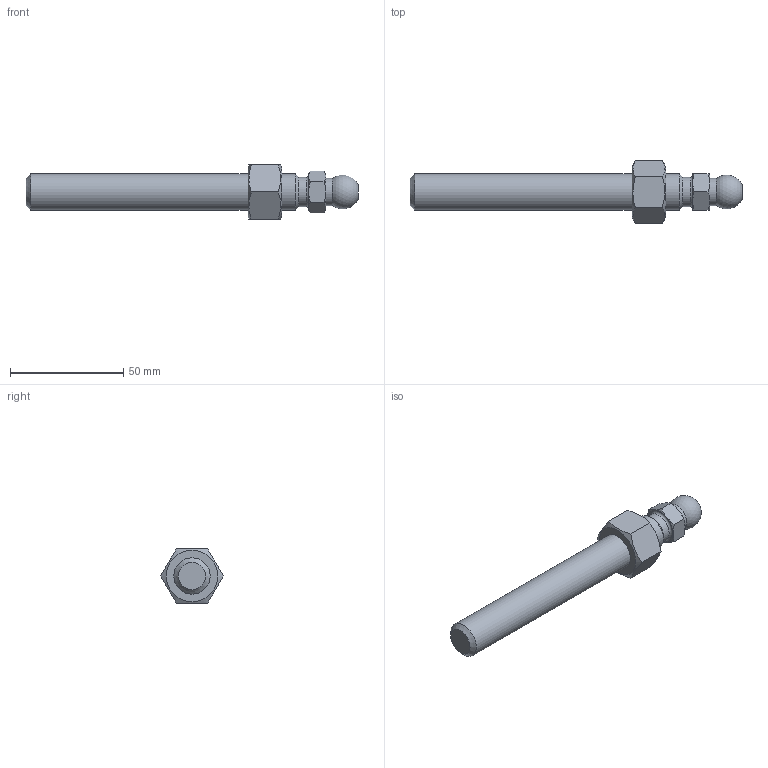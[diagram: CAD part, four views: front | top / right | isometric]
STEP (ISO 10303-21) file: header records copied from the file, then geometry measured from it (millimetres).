
FILE_DESCRIPTION(('STEP AP203'), '1');
FILE_NAME('A00020.116125', '', ('UNSPECIFIED'), ('UNSPECIFIED'), 'C3D Converter', 'C3D Toolkit', '');
FILE_SCHEMA(('CONFIG_CONTROL_DESIGN'));
Length unit declared in the file: millimetre
Products named in the file (2): A00020.116125
Assembly tree (1 placements, depth 2):
  A00020.116125
    (unnamed)
Bounding box: 146.8 x 27.71 x 24 mm (x, y, z)
Volume: 33281.1 mm3; surface area: 10079.3 mm2
Topology: 2 solids, 2 shells, 41 faces, 90 edges, 55 vertices
Faces by surface type: plane 18, cone 17, cylinder 4, sphere 1, torus 1
Full cylindrical faces by diameter (mm): 12 x1, 13 x1, 13.835 x1, 16 x1
Entity records: 2336 total; most frequent: CARTESIAN_POINT 1206, DIRECTION 160, ORIENTED_EDGE 156, EDGE_CURVE 78, AXIS2_PLACEMENT_3D 74, EDGE_LOOP 57, VERTEX_POINT 55, ADVANCED_FACE 41
